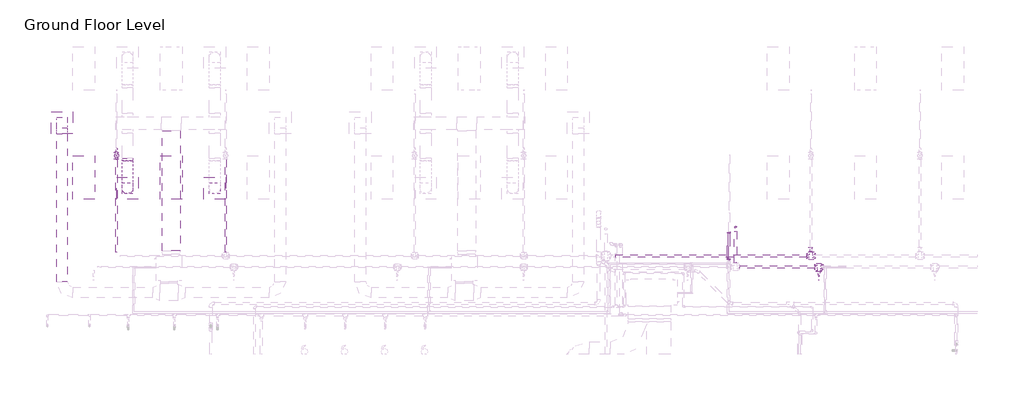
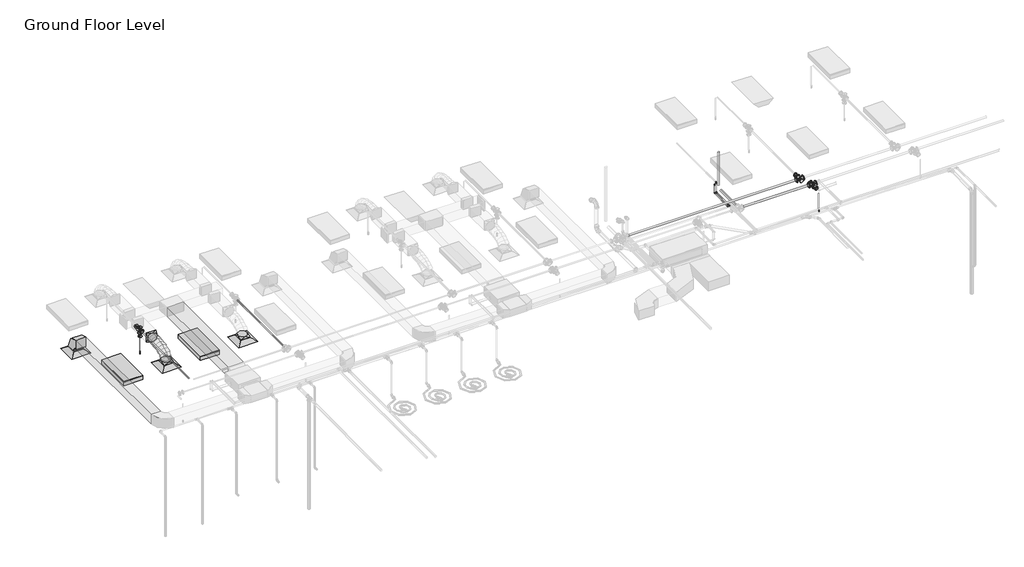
# One storey, part 54 of 72: 14 pipe fittings, 14 pipe segments, 4 duct fittings, 4 duct segments, 3 air terminals, 2 fire suppression terminals, 2 light fixtures.
"""IFC4 building model written with IfcOpenShell, lengths in millimetres."""

from ifc_helpers import new_model, si_unit, point, frame, frame_2d, origin, place, context, project, spatial, polyline, circle_curve, ellipse_curve, trimmed, segment, composite_curve, outline, extrude, transform, mapped, element, save
from ifc_brep_helpers import plane_surface, cylinder_surface, advanced_brep
from components import m_return_diffuser_600_x_600_face_300_x_300_connection_ff221211, m_rectangular_elbow_radius_1_w_618da153, m_rectangular_to_round_transition_angle_45_degree_641efff0, m_sprinkler_dry_pendent_hosted_15_mm_dry_pendent_9bda8e11, m_sprinkler_pendent_15_mm_pendent_06fcbd8e, m_troffer_light_parabolic_rectangular1_0600x1200mm_4_lamp_86473d4a, m_elbow_generic_standard_738589b0, m_elbow_generic_standard_463efa77, m_reducer_flanged_cs_class_150_standard_d42b2106, m_reducer_flanged_cs_class_150_standard_a7631c35, m_reducer_flanged_cs_class_150_standard_55262df0, m_tee_round_base_flanged_cs_class_150_standard_dd767e04, m_tee_round_base_flanged_cs_class_150_standard_7e5987a1

model = new_model("IFC4")

# Units and contexts
model_context = context("Model", 3, world=origin())
ifc_project = project(units=[si_unit("LENGTHUNIT", "METRE", prefix="MILLI")], contexts=[model_context])

# Site, building, storey
site = spatial("IfcSite", under=ifc_project)
building = spatial("IfcBuilding", under=site)
storey = spatial("IfcBuildingStorey", under=building, Name="Ground Floor Level", Elevation=900.0)

# Air terminals
placement = place(None, origin())
m_return_diffuser_600_x_600_face_300_x_300_connection_shape = m_return_diffuser_600_x_600_face_300_x_300_connection_ff221211(model_context)
element("IfcAirTerminal", 1, ObjectType="M_Return Diffuser : 600 x 600 Face 300 x 300 Connection", at=placement, inside=storey, context=model_context, shape_type="MappedRepresentation", body=[
    mapped(m_return_diffuser_600_x_600_face_300_x_300_connection_shape, transform((-20937.2327605, 18735.2153534, 3650.0), x_axis=(1.0, 0.0, 0.0), y_axis=(0.0, 1.0, 0.0), z_axis=(0.0, 0.0, 1.0))),
])
element("IfcAirTerminal", 2, ObjectType="M_Supply Diffuser : 600 x 600 Face 300 x 300 Connection", at=placement, inside=storey, context=model_context, shape_type="MappedRepresentation", body=[
    mapped(m_return_diffuser_600_x_600_face_300_x_300_connection_shape, transform((-19137.2327605, 16935.2153534, 3650.0), x_axis=(1.0, 0.0, 0.0), y_axis=(0.0, 1.0, 0.0), z_axis=(0.0, 0.0, 1.0))),
])
element("IfcAirTerminal", 3, ObjectType="M_Supply Diffuser : 600 x 600 Face 300 x 300 Connection", at=placement, inside=storey, context=model_context, shape_type="MappedRepresentation", body=[
    mapped(m_return_diffuser_600_x_600_face_300_x_300_connection_shape, transform((-16737.2327605, 16935.2153534, 3650.0), x_axis=(1.0, 0.0, 0.0), y_axis=(0.0, 1.0, 0.0), z_axis=(0.0, 0.0, 1.0))),
])

# Duct fittings
m_rectangular_elbow_radius_1_w_shape = m_rectangular_elbow_radius_1_w_618da153(model_context)
element("IfcDuctFitting", 4, ObjectType="M_Rectangular Elbow - Radius : 1 W", at=placement, inside=storey, context=model_context, shape_type="MappedRepresentation", body=[
    mapped(m_rectangular_elbow_radius_1_w_shape, transform((-20937.2327605, 18735.2153534, 4075.2881511), x_axis=(0.0, 0.0, 1.0), y_axis=(0.0, -1.0, 0.0), z_axis=(1.0, 0.0, 0.0))),
])
m_rectangular_to_round_transition_angle_45_degree_shape = m_rectangular_to_round_transition_angle_45_degree_641efff0(model_context)
element("IfcDuctFitting", 5, ObjectType="M_Rectangular to Round Transition - Angle : 45 Degree", at=placement, inside=storey, context=model_context, shape_type="MappedRepresentation", body=[
    mapped(m_rectangular_to_round_transition_angle_45_degree_shape, transform((-16737.2327605, 16935.2153534, 3751.6), x_axis=(0.0, 0.0, 1.0), y_axis=(-1.0, 0.0, 0.0), z_axis=(0.0, -1.0, 0.0))),
])
element("IfcDuctFitting", 6, ObjectType="M_Rectangular to Round Transition - Angle : 45 Degree", at=placement, inside=storey, context=model_context, shape_type="MappedRepresentation", body=[
    mapped(m_rectangular_to_round_transition_angle_45_degree_shape, transform((-19137.2327605, 16935.2153534, 3751.6), x_axis=(0.0, 0.0, 1.0), y_axis=(-1.0, 0.0, 0.0), z_axis=(0.0, -1.0, 0.0))),
])
element("IfcDuctFitting", 7, ObjectType="M_Rectangular to Round Transition - Angle : 45 Degree", at=placement, inside=storey, context=model_context, shape_type="MappedRepresentation", body=[
    mapped(m_rectangular_to_round_transition_angle_45_degree_shape, transform((-19137.2327605, 17762.5518775, 4099.9994072), x_axis=(0.0, -1.0, 0.0), y_axis=(1.0, 0.0, 0.0), z_axis=(0.0, 0.0, 1.0))),
])

# Duct segments
element("IfcDuctSegment", 8, ObjectType="Flex - Round", at=placement, inside=storey, context=model_context, shape_type="AdvancedBrep", body=[
    advanced_brep(
    [(-18987.2327605, 16935.2153534, 3826.6), (-19137.2327605, 16785.2153534, 3826.6), (-19287.2327605, 16935.2153534, 3826.6), (-19137.2327605, 17085.2153534, 3826.6), (-18987.2327605, 16935.2153534, 3857.9377363), (-19137.2327605, 16785.2153534, 3883.580989), (-19287.2327605, 16935.2153534, 3857.9377363), (-19137.2327605, 17085.2153534, 3832.2944836), (-18987.2327605, 16952.2313024, 3906.2505836), (-19137.2327605, 16818.4933608, 3978.0661859), (-19287.2327605, 16952.2313024, 3906.2505836), (-19137.2327605, 17085.969244, 3834.4349814), (-18987.2327605, 16999.4152275, 3968.711286), (-19137.2327605, 16895.2094297, 4079.6206779), (-19287.2327605, 16999.4152275, 3968.711286), (-19137.2327605, 17103.6210253, 3857.8018941), (-18987.2327605, 17070.9712459, 4016.0699627), (-19137.2327605, 17002.0373501, 4150.3237308), (-19287.2327605, 17070.9712459, 4016.0699627), (-19137.2327605, 17139.9051416, 3881.8161947), (-18987.2327605, 17161.1034747, 4050.4144697), (-19137.2327605, 17117.5428863, 4194.3366298), (-19287.2327605, 17161.1034747, 4050.4144697), (-19137.2327605, 17204.6640631, 3906.4923095), (-18987.2327605, 17264.0160312, 4073.8326625), (-19137.2327605, 17237.4552729, 4221.6232067), (-19287.2327605, 17264.0160312, 4073.8326625), (-19137.2327605, 17290.5767896, 3926.0421182), (-18987.2327605, 17373.9130326, 4088.4123969), (-19137.2327605, 17358.7622742, 4237.7166746), (-19287.2327605, 17373.9130326, 4088.4123969), (-19137.2327605, 17389.0637909, 3939.1081192), (-18987.2327605, 17484.9985959, 4096.2415287), (-19137.2327605, 17477.4933798, 4246.0846519), (-19287.2327605, 17484.9985959, 4096.2415287), (-19137.2327605, 17492.5038121, 3946.3984054), (-18987.2327605, 17591.4768385, 4099.4079135), (-19137.2327605, 17588.7854112, 4249.3941863), (-19287.2327605, 17591.4768385, 4099.4079135), (-19137.2327605, 17594.1682658, 3949.4216408), (-18987.2327605, 17687.5518775, 4099.9994072), (-19137.2327605, 17688.475347, 3950.0022499), (-19287.2327605, 17687.5518775, 4099.9994072), (-19137.2327605, 17686.6284079, 4249.9965645)],
    [
        (0, 1, circle_curve(frame((-19137.2327605, 16935.2153534, 3826.6), z_axis=(0.0, 0.0, -1.0), x_axis=(1.0, 0.0, 0.0)), 150.0)),
        (1, 2, circle_curve(frame((-19137.2327605, 16935.2153534, 3826.6), z_axis=(0.0, 0.0, -1.0), x_axis=(1.0, 0.0, 0.0)), 150.0)),
        (2, 3, circle_curve(frame((-19137.2327605, 16935.2153534, 3826.6), z_axis=(0.0, 0.0, -1.0), x_axis=(1.0, 0.0, 0.0)), 150.0)),
        (3, 0, circle_curve(frame((-19137.2327605, 16935.2153534, 3826.6), z_axis=(0.0, 0.0, -1.0), x_axis=(1.0, 0.0, 0.0)), 150.0)),
        (0, 4),
        (4, 5, ellipse_curve(frame((-19137.2327605, 16935.2153534, 3857.9377363), z_axis=(0.0, -0.1685103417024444, -0.9856998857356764), x_axis=(0.0, 0.9856998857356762, -0.1685103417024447)), 152.1761361, 150.0)),
        (5, 1),
        (5, 6, ellipse_curve(frame((-19137.2327605, 16935.2153534, 3857.9377363), z_axis=(0.0, -0.1685103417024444, -0.9856998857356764), x_axis=(0.0, 0.9856998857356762, -0.1685103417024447)), 152.1761361, 150.0)),
        (6, 2),
        (6, 7, ellipse_curve(frame((-19137.2327605, 16935.2153534, 3857.9377363), z_axis=(0.0, -0.1685103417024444, -0.9856998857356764), x_axis=(0.0, 0.9856998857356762, -0.1685103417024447)), 152.1761361, 150.0)),
        (7, 3),
        (7, 4, ellipse_curve(frame((-19137.2327605, 16935.2153534, 3857.9377363), z_axis=(0.0, -0.1685103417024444, -0.9856998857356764), x_axis=(0.0, 0.9856998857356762, -0.1685103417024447)), 152.1761361, 150.0)),
        (4, 8),
        (8, 9, ellipse_curve(frame((-19137.2327605, 16952.2313024, 3906.2505836), z_axis=(0.0, -0.4730927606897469, -0.8810126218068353), x_axis=(0.0, 0.881012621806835, -0.4730927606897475)), 151.8002561, 150.0)),
        (9, 5),
        (9, 10, ellipse_curve(frame((-19137.2327605, 16952.2313024, 3906.2505836), z_axis=(0.0, -0.4730927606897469, -0.8810126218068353), x_axis=(0.0, 0.881012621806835, -0.4730927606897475)), 151.8002561, 150.0)),
        (10, 6),
        (10, 11, ellipse_curve(frame((-19137.2327605, 16952.2313024, 3906.2505836), z_axis=(0.0, -0.4730927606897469, -0.8810126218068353), x_axis=(0.0, 0.881012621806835, -0.4730927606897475)), 151.8002561, 150.0)),
        (11, 7),
        (11, 8, ellipse_curve(frame((-19137.2327605, 16952.2313024, 3906.2505836), z_axis=(0.0, -0.4730927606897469, -0.8810126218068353), x_axis=(0.0, 0.881012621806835, -0.4730927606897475)), 151.8002561, 150.0)),
        (8, 12),
        (12, 13, ellipse_curve(frame((-19137.2327605, 16999.4152275, 3968.711286), z_axis=(0.0, -0.7287884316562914, -0.6847389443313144), x_axis=(0.0, 0.6847389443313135, -0.7287884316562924)), 152.1832498, 150.0)),
        (13, 9),
        (13, 14, ellipse_curve(frame((-19137.2327605, 16999.4152275, 3968.711286), z_axis=(0.0, -0.7287884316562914, -0.6847389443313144), x_axis=(0.0, 0.6847389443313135, -0.7287884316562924)), 152.1832498, 150.0)),
        (14, 10),
        (14, 15, ellipse_curve(frame((-19137.2327605, 16999.4152275, 3968.711286), z_axis=(0.0, -0.7287884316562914, -0.6847389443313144), x_axis=(0.0, 0.6847389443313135, -0.7287884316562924)), 152.1832498, 150.0)),
        (15, 11),
        (15, 12, ellipse_curve(frame((-19137.2327605, 16999.4152275, 3968.711286), z_axis=(0.0, -0.7287884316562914, -0.6847389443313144), x_axis=(0.0, 0.6847389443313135, -0.7287884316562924)), 152.1832498, 150.0)),
        (12, 16),
        (16, 17, ellipse_curve(frame((-19137.2327605, 17070.9712459, 4016.0699627), z_axis=(0.0, -0.8895864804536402, -0.45676678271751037), x_axis=(0.0, 0.45676678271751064, -0.88958648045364)), 150.9170508, 150.0)),
        (17, 13),
        (17, 18, ellipse_curve(frame((-19137.2327605, 17070.9712459, 4016.0699627), z_axis=(0.0, -0.8895864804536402, -0.45676678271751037), x_axis=(0.0, 0.45676678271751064, -0.88958648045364)), 150.9170508, 150.0)),
        (18, 14),
        (18, 19, ellipse_curve(frame((-19137.2327605, 17070.9712459, 4016.0699627), z_axis=(0.0, -0.8895864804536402, -0.45676678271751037), x_axis=(0.0, 0.45676678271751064, -0.88958648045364)), 150.9170508, 150.0)),
        (19, 15),
        (19, 16, ellipse_curve(frame((-19137.2327605, 17070.9712459, 4016.0699627), z_axis=(0.0, -0.8895864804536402, -0.45676678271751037), x_axis=(0.0, 0.45676678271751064, -0.88958648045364)), 150.9170508, 150.0)),
        (16, 20),
        (20, 21, ellipse_curve(frame((-19137.2327605, 17161.1034747, 4050.4144697), z_axis=(0.0, -0.9571206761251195, -0.2896895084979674), x_axis=(0.0, 0.28968950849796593, -0.9571206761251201)), 150.3699207, 150.0)),
        (21, 17),
        (21, 22, ellipse_curve(frame((-19137.2327605, 17161.1034747, 4050.4144697), z_axis=(0.0, -0.9571206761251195, -0.2896895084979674), x_axis=(0.0, 0.28968950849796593, -0.9571206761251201)), 150.3699207, 150.0)),
        (22, 18),
        (22, 23, ellipse_curve(frame((-19137.2327605, 17161.1034747, 4050.4144697), z_axis=(0.0, -0.9571206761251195, -0.2896895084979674), x_axis=(0.0, 0.28968950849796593, -0.9571206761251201)), 150.3699207, 150.0)),
        (23, 19),
        (23, 20, ellipse_curve(frame((-19137.2327605, 17161.1034747, 4050.4144697), z_axis=(0.0, -0.9571206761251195, -0.2896895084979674), x_axis=(0.0, 0.28968950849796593, -0.9571206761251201)), 150.3699207, 150.0)),
        (20, 24),
        (24, 25, ellipse_curve(frame((-19137.2327605, 17264.0160312, 4073.8326625), z_axis=(0.0, -0.984231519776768, -0.17688503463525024), x_axis=(0.0, 0.17688503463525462, -0.984231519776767)), 150.1583126, 150.0)),
        (25, 21),
        (25, 26, ellipse_curve(frame((-19137.2327605, 17264.0160312, 4073.8326625), z_axis=(0.0, -0.984231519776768, -0.17688503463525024), x_axis=(0.0, 0.17688503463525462, -0.984231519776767)), 150.1583126, 150.0)),
        (26, 22),
        (26, 27, ellipse_curve(frame((-19137.2327605, 17264.0160312, 4073.8326625), z_axis=(0.0, -0.984231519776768, -0.17688503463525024), x_axis=(0.0, 0.17688503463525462, -0.984231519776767)), 150.1583126, 150.0)),
        (27, 23),
        (27, 24, ellipse_curve(frame((-19137.2327605, 17264.0160312, 4073.8326625), z_axis=(0.0, -0.984231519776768, -0.17688503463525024), x_axis=(0.0, 0.17688503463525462, -0.984231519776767)), 150.1583126, 150.0)),
        (24, 28),
        (28, 29, ellipse_curve(frame((-19137.2327605, 17373.9130326, 4088.4123969), z_axis=(0.0, -0.9948907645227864, -0.1009572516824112), x_axis=(0.0, 0.10095725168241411, -0.9948907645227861)), 150.0710259, 150.0)),
        (29, 25),
        (29, 30, ellipse_curve(frame((-19137.2327605, 17373.9130326, 4088.4123969), z_axis=(0.0, -0.9948907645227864, -0.1009572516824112), x_axis=(0.0, 0.10095725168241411, -0.9948907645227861)), 150.0710259, 150.0)),
        (30, 26),
        (30, 31, ellipse_curve(frame((-19137.2327605, 17373.9130326, 4088.4123969), z_axis=(0.0, -0.9948907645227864, -0.1009572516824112), x_axis=(0.0, 0.10095725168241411, -0.9948907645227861)), 150.0710259, 150.0)),
        (31, 27),
        (31, 28, ellipse_curve(frame((-19137.2327605, 17373.9130326, 4088.4123969), z_axis=(0.0, -0.9948907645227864, -0.1009572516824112), x_axis=(0.0, 0.10095725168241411, -0.9948907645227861)), 150.0710259, 150.0)),
        (28, 32),
        (32, 33, ellipse_curve(frame((-19137.2327605, 17484.9985959, 4096.2415287), z_axis=(0.0, -0.9987479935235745, -0.05002444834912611), x_axis=(0.0, 0.050024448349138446, -0.9987479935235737)), 150.030963, 150.0)),
        (33, 29),
        (33, 34, ellipse_curve(frame((-19137.2327605, 17484.9985959, 4096.2415287), z_axis=(0.0, -0.9987479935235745, -0.05002444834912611), x_axis=(0.0, 0.050024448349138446, -0.9987479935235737)), 150.030963, 150.0)),
        (34, 30),
        (34, 35, ellipse_curve(frame((-19137.2327605, 17484.9985959, 4096.2415287), z_axis=(0.0, -0.9987479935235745, -0.05002444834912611), x_axis=(0.0, 0.050024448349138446, -0.9987479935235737)), 150.030963, 150.0)),
        (35, 31),
        (35, 32, ellipse_curve(frame((-19137.2327605, 17484.9985959, 4096.2415287), z_axis=(0.0, -0.9987479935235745, -0.05002444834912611), x_axis=(0.0, 0.050024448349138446, -0.9987479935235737)), 150.030963, 150.0)),
        (32, 36),
        (36, 37, ellipse_curve(frame((-19137.2327605, 17591.4768385, 4099.4079135), z_axis=(0.0, -0.9998390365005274, -0.017941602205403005), x_axis=(0.0, 0.017941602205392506, -0.9998390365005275)), 150.0104189, 150.0)),
        (37, 33),
        (37, 38, ellipse_curve(frame((-19137.2327605, 17591.4768385, 4099.4079135), z_axis=(0.0, -0.9998390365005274, -0.017941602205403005), x_axis=(0.0, 0.017941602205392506, -0.9998390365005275)), 150.0104189, 150.0)),
        (38, 34),
        (38, 39, ellipse_curve(frame((-19137.2327605, 17591.4768385, 4099.4079135), z_axis=(0.0, -0.9998390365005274, -0.017941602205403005), x_axis=(0.0, 0.017941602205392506, -0.9998390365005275)), 150.0104189, 150.0)),
        (39, 35),
        (39, 36, ellipse_curve(frame((-19137.2327605, 17591.4768385, 4099.4079135), z_axis=(0.0, -0.9998390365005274, -0.017941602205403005), x_axis=(0.0, 0.017941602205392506, -0.9998390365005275)), 150.0104189, 150.0)),
        (40, 41, circle_curve(frame((-19137.2327605, 17687.5518775, 4099.9994072), z_axis=(0.0, 0.9999810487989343, 0.006156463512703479), x_axis=(1.0, 0.0, 0.0)), 150.0)),
        (41, 42, circle_curve(frame((-19137.2327605, 17687.5518775, 4099.9994072), z_axis=(0.0, 0.9999810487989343, 0.006156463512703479), x_axis=(1.0, 0.0, 0.0)), 150.0)),
        (42, 43, circle_curve(frame((-19137.2327605, 17687.5518775, 4099.9994072), z_axis=(0.0, 0.9999810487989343, 0.006156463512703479), x_axis=(1.0, 0.0, 0.0)), 150.0)),
        (43, 40, circle_curve(frame((-19137.2327605, 17687.5518775, 4099.9994072), z_axis=(0.0, 0.9999810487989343, 0.006156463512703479), x_axis=(1.0, 0.0, 0.0)), 150.0)),
        (36, 40),
        (43, 37),
        (42, 38),
        (41, 39),
    ],
    [
        plane_surface(frame((-19137.2327605, 16785.2153534, 3826.6), z_axis=(0.0, 0.0, -1.0), x_axis=(1.0, 0.0, 0.0))),
        cylinder_surface(frame((-19137.2327605, 16935.2153534, 3826.6), z_axis=(0.0, 0.0, -1.0), x_axis=(1.0, 0.0, 0.0)), 150.0),
        cylinder_surface(frame((-19137.2327605, 16935.2153534, 3857.9377363), z_axis=(0.0, -0.33220124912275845, -0.9432085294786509), x_axis=(1.0, 0.0, 0.0)), 150.0),
        cylinder_surface(frame((-19137.2327605, 16952.2313024, 3906.2505836), z_axis=(0.0, -0.6027631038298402, -0.7979201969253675), x_axis=(1.0, 0.0, 0.0)), 150.0),
        cylinder_surface(frame((-19137.2327605, 16999.4152275, 3968.711286), z_axis=(0.0, -0.833903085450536, -0.5519109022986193), x_axis=(1.0, 0.0, 0.0)), 150.0),
        cylinder_surface(frame((-19137.2327605, 17070.9712459, 4016.0699627), z_axis=(0.0, -0.9344586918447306, -0.3560715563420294), x_axis=(1.0, 0.0, 0.0)), 150.0),
        cylinder_surface(frame((-19137.2327605, 17161.1034747, 4050.4144697), z_axis=(0.0, -0.9750734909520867, -0.22188214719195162), x_axis=(1.0, 0.0, 0.0)), 150.0),
        cylinder_surface(frame((-19137.2327605, 17264.0160312, 4073.8326625), z_axis=(0.0, -0.9913141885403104, -0.13151494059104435), x_axis=(1.0, 0.0, 0.0)), 150.0),
        cylinder_surface(frame((-19137.2327605, 17373.9130326, 4088.4123969), z_axis=(0.0, -0.9975256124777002, -0.07030400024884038), x_axis=(1.0, 0.0, 0.0)), 150.0),
        cylinder_surface(frame((-19137.2327605, 17484.9985959, 4096.2415287), z_axis=(0.0, -0.9995581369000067, -0.029724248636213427), x_axis=(1.0, 0.0, 0.0)), 150.0),
        plane_surface(frame((-19137.2327605, 17686.6284079, 4249.9965645), z_axis=(0.0, 0.9999810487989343, 0.006156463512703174), x_axis=(1.0, 0.0, 0.0))),
        cylinder_surface(frame((-19137.2327605, 17591.4768385, 4099.4079135), z_axis=(0.0, -0.9999810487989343, -0.006156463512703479), x_axis=(1.0, 0.0, 0.0)), 150.0),
    ],
    [
        (0, [[1, 2, 3, 4]]),
        (1, [[-1, 5, 6, 7]]),
        (1, [[-2, -7, 8, 9]]),
        (1, [[-3, -9, 10, 11]]),
        (1, [[-4, -11, 12, -5]]),
        (2, [[-6, 13, 14, 15]]),
        (2, [[-8, -15, 16, 17]]),
        (2, [[-10, -17, 18, 19]]),
        (2, [[-12, -19, 20, -13]]),
        (3, [[-14, 21, 22, 23]]),
        (3, [[-16, -23, 24, 25]]),
        (3, [[-18, -25, 26, 27]]),
        (3, [[-20, -27, 28, -21]]),
        (4, [[-22, 29, 30, 31]]),
        (4, [[-24, -31, 32, 33]]),
        (4, [[-26, -33, 34, 35]]),
        (4, [[-28, -35, 36, -29]]),
        (5, [[-30, 37, 38, 39]]),
        (5, [[-32, -39, 40, 41]]),
        (5, [[-34, -41, 42, 43]]),
        (5, [[-36, -43, 44, -37]]),
        (6, [[-38, 45, 46, 47]]),
        (6, [[-40, -47, 48, 49]]),
        (6, [[-42, -49, 50, 51]]),
        (6, [[-44, -51, 52, -45]]),
        (7, [[-46, 53, 54, 55]]),
        (7, [[-48, -55, 56, 57]]),
        (7, [[-50, -57, 58, 59]]),
        (7, [[-52, -59, 60, -53]]),
        (8, [[-54, 61, 62, 63]]),
        (8, [[-56, -63, 64, 65]]),
        (8, [[-58, -65, 66, 67]]),
        (8, [[-60, -67, 68, -61]]),
        (9, [[-62, 69, 70, 71]]),
        (9, [[-64, -71, 72, 73]]),
        (9, [[-66, -73, 74, 75]]),
        (9, [[-68, -75, 76, -69]]),
        (10, [[77, 78, 79, 80]]),
        (11, [[-70, 81, -80, 82]]),
        (11, [[-72, -82, -79, 83]]),
        (11, [[-74, -83, -78, 84]]),
        (11, [[-76, -84, -77, -81]]),
    ],
),
])
element("IfcDuctSegment", 9, ObjectType="Radius Elbows / Taps", at=placement, inside=storey, context=model_context, shape_type="SweptSolid", body=[
    extrude(outline(polyline([(-17683.7327605, 15224.0945822), (-18183.7327605, 15224.0945822), (-18183.7327605, 18524.6783949), (-17683.7327605, 18524.6783949), (-17683.7327605, 15224.0945822)])), frame((0.0, 0.0, 3950.0008948), z_axis=(0.0, 0.0, 1.0), x_axis=(1.0, 0.0, 0.0)), (0.0, 0.0, 1.0), 300.0),
])
element("IfcDuctSegment", 10, ObjectType="Radius Elbows / Taps", at=placement, inside=storey, context=model_context, shape_type="SweptSolid", body=[
    extrude(outline(polyline([(-20787.2327605, 14369.8153534), (-21087.2327605, 14369.8153534), (-21087.2327605, 18435.2153534), (-20787.2327605, 18435.2153534), (-20787.2327605, 14369.8153534)])), frame((0.0, 0.0, 3925.2881511), z_axis=(0.0, 0.0, 1.0), x_axis=(1.0, 0.0, 0.0)), (0.0, 0.0, 1.0), 300.0),
])
element("IfcDuctSegment", 11, ObjectType="Radius Elbows / Taps", at=placement, inside=storey, context=model_context, shape_type="SweptSolid", body=[
    extrude(outline(polyline([(-20787.2327605, 18585.2153534), (-21087.2327605, 18585.2153534), (-21087.2327605, 18885.2153534), (-20787.2327605, 18885.2153534), (-20787.2327605, 18585.2153534)])), frame((0.0, 0.0, 3751.6), z_axis=(0.0, 0.0, 1.0), x_axis=(1.0, 0.0, 0.0)), (0.0, 0.0, 1.0), 23.6881511),
])

# Fire suppression terminals
m_sprinkler_dry_pendent_hosted_15_mm_dry_pendent_shape = m_sprinkler_dry_pendent_hosted_15_mm_dry_pendent_9bda8e11(model_context)
element("IfcFireSuppressionTerminal", 12, ObjectType="M_Sprinkler - Dry - Pendent - Hosted : 15 mm Dry Pendent", at=placement, inside=storey, context=model_context, shape_type="MappedRepresentation", body=[
    mapped(m_sprinkler_dry_pendent_hosted_15_mm_dry_pendent_shape, transform((-19437.2327605, 17835.2153534, 3650.0), x_axis=(1.0, 0.0, 0.0), y_axis=(0.0, -1.0, 0.0), z_axis=(0.0, 0.0, -1.0))),
])
m_sprinkler_pendent_15_mm_pendent_shape = m_sprinkler_pendent_15_mm_pendent_06fcbd8e(model_context)
element("IfcFireSuppressionTerminal", 13, ObjectType="M_Sprinkler - Pendent : 15 mm Pendent", at=placement, inside=storey, context=model_context, shape_type="MappedRepresentation", body=[
    mapped(m_sprinkler_pendent_15_mm_pendent_shape, transform((-118.3252882, 14412.7243649, 3650.0), x_axis=(1.0, 0.0, 0.0), y_axis=(0.0, 1.0, 0.0), z_axis=(0.0, 0.0, 1.0))),
])

# Light fixtures
m_troffer_light_parabolic_rectangular1_0600x1200mm_4_lamp_shape = m_troffer_light_parabolic_rectangular1_0600x1200mm_4_lamp_86473d4a(model_context)
element("IfcLightFixture", 14, ObjectType="M_Troffer Light - Parabolic Rectangular1 : 0600x1200mm(4 Lamp) - 277V 2", at=placement, inside=storey, context=model_context, shape_type="MappedRepresentation", body=[
    mapped(m_troffer_light_parabolic_rectangular1_0600x1200mm_4_lamp_shape, transform((-20396.6986926, 17253.918855, 3650.0), x_axis=(0.0, 1.0, 0.0), y_axis=(-1.0, 0.0, 0.0), z_axis=(0.0, 0.0, 1.0))),
])
element("IfcLightFixture", 15, ObjectType="M_Troffer Light - Parabolic Rectangular1 : 0600x1200mm(4 Lamp) - 277V 2", at=placement, inside=storey, context=model_context, shape_type="MappedRepresentation", body=[
    mapped(m_troffer_light_parabolic_rectangular1_0600x1200mm_4_lamp_shape, transform((-17996.6986926, 17253.918855, 3650.0), x_axis=(0.0, 1.0, 0.0), y_axis=(-1.0, 0.0, 0.0), z_axis=(0.0, 0.0, 1.0))),
])

# Pipe fittings
m_elbow_generic_standard_shape = m_elbow_generic_standard_738589b0(model_context)
element("IfcPipeFitting", 16, ObjectType="M_Elbow - Generic : Standard", at=placement, inside=storey, context=model_context, shape_type="MappedRepresentation", body=[
    mapped(m_elbow_generic_standard_shape, transform((-2632.5317947, 15715.5935138, 4581.0887163), x_axis=(0.0, 0.0, 1.0), y_axis=(0.0, 1.0, 0.0), z_axis=(-1.0, 0.0, 0.0))),
])
element("IfcPipeFitting", 17, ObjectType="M_Elbow - Generic : Standard", at=placement, inside=storey, context=model_context, shape_type="MappedRepresentation", body=[
    mapped(m_elbow_generic_standard_shape, transform((-2632.5317947, 14990.7777393, 4365.0), x_axis=(0.0, 1.0, 0.0), y_axis=(0.0, 0.0, -1.0), z_axis=(-1.0, 0.0, 0.0))),
])
element("IfcPipeFitting", 18, ObjectType="M_Elbow - Generic : Standard", at=placement, inside=storey, context=model_context, shape_type="MappedRepresentation", body=[
    mapped(m_elbow_generic_standard_shape, transform((-2632.5317947, 15715.5935138, 4300.0), x_axis=(0.0, 0.0, -1.0), y_axis=(0.0, -1.0, 0.0), z_axis=(-1.0, 0.0, 0.0))),
])
element("IfcPipeFitting", 19, ObjectType="M_Elbow - Generic : Standard", at=placement, inside=storey, context=model_context, shape_type="MappedRepresentation", body=[
    mapped(m_elbow_generic_standard_shape, transform((-2632.5317947, 14990.7777393, 4300.0), x_axis=(0.0, 0.0, -1.0), y_axis=(0.0, 1.0, 0.0), z_axis=(1.0, 0.0, 0.0))),
])
m_elbow_generic_standard_2_shape = m_elbow_generic_standard_463efa77(model_context)
element("IfcPipeFitting", 20, ObjectType="M_Elbow - Generic : Standard", at=placement, inside=storey, context=model_context, shape_type="MappedRepresentation", body=[
    mapped(m_elbow_generic_standard_2_shape, transform((-2579.6952605, 15716.2153534, 4634.3568617), x_axis=(0.0, 0.0, 1.0), y_axis=(0.0, 1.0, 0.0), z_axis=(-1.0, 0.0, 0.0))),
])
element("IfcPipeFitting", 21, ObjectType="M_Elbow - Generic : Standard", at=placement, inside=storey, context=model_context, shape_type="MappedRepresentation", body=[
    mapped(m_elbow_generic_standard_2_shape, transform((-2579.6952605, 15716.2153534, 4300.0), x_axis=(0.0, 0.0, -1.0), y_axis=(0.0, -1.0, 0.0), z_axis=(-1.0, 0.0, 0.0))),
])
element("IfcPipeFitting", 22, ObjectType="M_Elbow - Generic : Standard", at=placement, inside=storey, context=model_context, shape_type="MappedRepresentation", body=[
    mapped(m_elbow_generic_standard_2_shape, transform((-2579.6952605, 14974.394156, 4300.0), x_axis=(0.0, 0.0, -1.0), y_axis=(0.0, 1.0, 0.0), z_axis=(1.0, 0.0, 0.0))),
])
m_reducer_flanged_cs_class_150_standard_shape = m_reducer_flanged_cs_class_150_standard_d42b2106(model_context)
element("IfcPipeFitting", 23, ObjectType="M_Reducer - Flanged - CS - Class 150 : Standard", at=placement, inside=storey, context=model_context, shape_type="MappedRepresentation", body=[
    mapped(m_reducer_flanged_cs_class_150_standard_shape, transform((-19437.2327605, 17835.2153534, 4259.2914063), x_axis=(0.0, 0.0, -1.0), y_axis=(-1.0, 0.0, 0.0), z_axis=(0.0, 1.0, 0.0))),
])
element("IfcPipeFitting", 24, ObjectType="M_Reducer - Flanged - CS - Class 150 : Standard", at=placement, inside=storey, context=model_context, shape_type="MappedRepresentation", body=[
    mapped(m_reducer_flanged_cs_class_150_standard_shape, transform((-19437.2327605, 17935.9239471, 4360.0), x_axis=(0.0, 1.0, 0.0), y_axis=(-1.0, 0.0, 0.0), z_axis=(0.0, 0.0, 1.0))),
])
m_reducer_flanged_cs_class_150_standard_2_shape = m_reducer_flanged_cs_class_150_standard_a7631c35(model_context)
element("IfcPipeFitting", 25, ObjectType="M_Reducer - Flanged - CS - Class 150 : Standard", at=placement, inside=storey, context=model_context, shape_type="MappedRepresentation", body=[
    mapped(m_reducer_flanged_cs_class_150_standard_2_shape, transform((-337.2327605, 15187.2009828, 4360.0), x_axis=(0.0, 1.0, 0.0), y_axis=(-1.0, 0.0, 0.0), z_axis=(0.0, 0.0, 1.0))),
])
m_reducer_flanged_cs_class_150_standard_3_shape = m_reducer_flanged_cs_class_150_standard_55262df0(model_context)
element("IfcPipeFitting", 26, ObjectType="M_Reducer - Flanged - CS - Class 150 : Standard", at=placement, inside=storey, context=model_context, shape_type="MappedRepresentation", body=[
    mapped(m_reducer_flanged_cs_class_150_standard_3_shape, transform((-118.3252882, 14659.4681847, 4291.0943441), x_axis=(0.0, -1.0, 0.0), y_axis=(1.0, 0.0, 0.0), z_axis=(0.0, 0.0, 1.0))),
])
m_tee_round_base_flanged_cs_class_150_standard_shape = m_tee_round_base_flanged_cs_class_150_standard_dd767e04(model_context)
element("IfcPipeFitting", 27, ObjectType="M_Tee Round Base - Flanged - CS - Class 150 : Standard", at=placement, inside=storey, context=model_context, shape_type="MappedRepresentation", body=[
    mapped(m_tee_round_base_flanged_cs_class_150_standard_shape, transform((-118.3252882, 14773.4681847, 4291.0943441), x_axis=(-1.0, 0.0, 0.0), y_axis=(0.0, 1.0, 0.0), z_axis=(0.0, 0.0, -1.0))),
])
element("IfcPipeFitting", 28, ObjectType="M_Tee Round Base - Flanged - CS - Class 150 : Standard", at=placement, inside=storey, context=model_context, shape_type="MappedRepresentation", body=[
    mapped(m_tee_round_base_flanged_cs_class_150_standard_shape, transform((-337.2327605, 15073.2009828, 4360.0), x_axis=(-1.0, 0.0, 0.0), y_axis=(0.0, -1.0, 0.0), z_axis=(0.0, 0.0, 1.0))),
])
m_tee_round_base_flanged_cs_class_150_standard_2_shape = m_tee_round_base_flanged_cs_class_150_standard_7e5987a1(model_context)
element("IfcPipeFitting", 29, ObjectType="M_Tee Round Base - Flanged - CS - Class 150 : Standard", at=placement, inside=storey, context=model_context, shape_type="MappedRepresentation", body=[
    mapped(m_tee_round_base_flanged_cs_class_150_standard_2_shape, transform((-19437.2327605, 17835.2153534, 4360.0), x_axis=(0.0, 1.0, 0.0), y_axis=(0.0, 0.0, 1.0), z_axis=(1.0, 0.0, 0.0))),
])

# Pipe segments
element("IfcPipeSegment", 30, ObjectType="Copper", at=placement, inside=storey, context=model_context, shape_type="SweptSolid", body=[
    extrude(outline(composite_curve([segment(trimmed(circle_curve(frame_2d((4300.0, -2579.6952605)), 14.5), [point((4300.0, -2594.1952605))], [point((4285.5, -2579.6952605))], False, "CARTESIAN"), True, "CONTINUOUS"), segment(trimmed(circle_curve(frame_2d((4300.0, -2579.6952605)), 14.5), [point((4285.5, -2579.6952605))], [point((4300.0, -2565.1952605))], False, "CARTESIAN"), True, "CONTINUOUS"), segment(trimmed(circle_curve(frame_2d((4300.0, -2579.6952605)), 14.5), [point((4300.0, -2565.1952605))], [point((4314.5, -2579.6952605))], False, "CARTESIAN"), True, "CONTINUOUS"), segment(trimmed(circle_curve(frame_2d((4300.0, -2579.6952605)), 14.5), [point((4314.5, -2579.6952605))], [point((4300.0, -2594.1952605))], False, "CARTESIAN"), True, "CONTINUOUS")], self_intersect=False)), frame((0.0, 14996.619156, 0.0), z_axis=(0.0, 1.0, 0.0), x_axis=(0.0, 0.0, 1.0)), (0.0, 0.0, 1.0), 697.3711973),
])
element("IfcPipeSegment", 31, ObjectType="Copper", at=placement, inside=storey, context=model_context, shape_type="SweptSolid", body=[
    extrude(outline(composite_curve([segment(trimmed(circle_curve(frame_2d((4300.0, -2632.5317947)), 9.75), [point((4300.0, -2642.2817947))], [point((4290.25, -2632.5317947))], False, "CARTESIAN"), True, "CONTINUOUS"), segment(trimmed(circle_curve(frame_2d((4300.0, -2632.5317947)), 9.75), [point((4290.25, -2632.5317947))], [point((4300.0, -2622.7817947))], False, "CARTESIAN"), True, "CONTINUOUS"), segment(trimmed(circle_curve(frame_2d((4300.0, -2632.5317947)), 9.75), [point((4300.0, -2622.7817947))], [point((4309.75, -2632.5317947))], False, "CARTESIAN"), True, "CONTINUOUS"), segment(trimmed(circle_curve(frame_2d((4300.0, -2632.5317947)), 9.75), [point((4309.75, -2632.5317947))], [point((4300.0, -2642.2817947))], False, "CARTESIAN"), True, "CONTINUOUS")], self_intersect=False)), frame((0.0, 15008.2402393, 0.0), z_axis=(0.0, 1.0, 0.0), x_axis=(0.0, 0.0, 1.0)), (0.0, 0.0, 1.0), 689.8907745),
])
element("IfcPipeSegment", 32, ObjectType="Copper", at=placement, inside=storey, context=model_context, shape_type="SweptSolid", body=[
    extrude(outline(composite_curve([segment(trimmed(circle_curve(frame_2d((-2632.5317947, 15715.5935138)), 9.75), [point((-2642.2817947, 15715.5935138))], [point((-2632.5317947, 15725.3435138))], False, "CARTESIAN"), True, "CONTINUOUS"), segment(trimmed(circle_curve(frame_2d((-2632.5317947, 15715.5935138)), 9.75), [point((-2632.5317947, 15725.3435138))], [point((-2622.7817947, 15715.5935138))], False, "CARTESIAN"), True, "CONTINUOUS"), segment(trimmed(circle_curve(frame_2d((-2632.5317947, 15715.5935138)), 9.75), [point((-2622.7817947, 15715.5935138))], [point((-2632.5317947, 15705.8435138))], False, "CARTESIAN"), True, "CONTINUOUS"), segment(trimmed(circle_curve(frame_2d((-2632.5317947, 15715.5935138)), 9.75), [point((-2632.5317947, 15705.8435138))], [point((-2642.2817947, 15715.5935138))], False, "CARTESIAN"), True, "CONTINUOUS")], self_intersect=False)), frame((0.0, 0.0, 4317.4625), z_axis=(0.0, 0.0, 1.0), x_axis=(1.0, 0.0, 0.0)), (0.0, 0.0, 1.0), 246.1637163),
])
element("IfcPipeSegment", 33, ObjectType="Copper", at=placement, inside=storey, context=model_context, shape_type="SweptSolid", body=[
    extrude(outline(composite_curve([segment(trimmed(circle_curve(frame_2d((-2579.6952605, 15716.2153534)), 14.5), [point((-2594.1952605, 15716.2153534))], [point((-2579.6952605, 15730.7153534))], False, "CARTESIAN"), True, "CONTINUOUS"), segment(trimmed(circle_curve(frame_2d((-2579.6952605, 15716.2153534)), 14.5), [point((-2579.6952605, 15730.7153534))], [point((-2565.1952605, 15716.2153534))], False, "CARTESIAN"), True, "CONTINUOUS"), segment(trimmed(circle_curve(frame_2d((-2579.6952605, 15716.2153534)), 14.5), [point((-2565.1952605, 15716.2153534))], [point((-2579.6952605, 15701.7153534))], False, "CARTESIAN"), True, "CONTINUOUS"), segment(trimmed(circle_curve(frame_2d((-2579.6952605, 15716.2153534)), 14.5), [point((-2579.6952605, 15701.7153534))], [point((-2594.1952605, 15716.2153534))], False, "CARTESIAN"), True, "CONTINUOUS")], self_intersect=False)), frame((0.0, 0.0, 4322.225), z_axis=(0.0, 0.0, 1.0), x_axis=(1.0, 0.0, 0.0)), (0.0, 0.0, 1.0), 289.9068617),
])
element("IfcPipeSegment", 34, ObjectType="Copper", at=placement, inside=storey, context=model_context, shape_type="SweptSolid", body=[
    extrude(outline(composite_curve([segment(trimmed(circle_curve(frame_2d((-2632.5317947, 14990.7777393)), 9.75), [point((-2622.7817947, 14990.7777393))], [point((-2632.5317947, 14981.0277393))], False, "CARTESIAN"), True, "CONTINUOUS"), segment(trimmed(circle_curve(frame_2d((-2632.5317947, 14990.7777393)), 9.75), [point((-2632.5317947, 14981.0277393))], [point((-2642.2817947, 14990.7777393))], False, "CARTESIAN"), True, "CONTINUOUS"), segment(trimmed(circle_curve(frame_2d((-2632.5317947, 14990.7777393)), 9.75), [point((-2642.2817947, 14990.7777393))], [point((-2632.5317947, 15000.5277393))], False, "CARTESIAN"), True, "CONTINUOUS"), segment(trimmed(circle_curve(frame_2d((-2632.5317947, 14990.7777393)), 9.75), [point((-2632.5317947, 15000.5277393))], [point((-2622.7817947, 14990.7777393))], False, "CARTESIAN"), True, "CONTINUOUS")], self_intersect=False)), frame((0.0, 0.0, 4317.4625), z_axis=(0.0, 0.0, 1.0), x_axis=(1.0, 0.0, 0.0)), (0.0, 0.0, 1.0), 30.075),
])
element("IfcPipeSegment", 35, ObjectType="Steel flanged", at=placement, inside=storey, context=model_context, shape_type="SweptSolid", body=[
    extrude(outline(composite_curve([segment(trimmed(circle_curve(frame_2d((-118.3252882, 14412.7243649)), 10.668), [point((-128.9932882, 14412.7243649))], [point((-118.3252882, 14423.3923649))], False, "CARTESIAN"), True, "CONTINUOUS"), segment(trimmed(circle_curve(frame_2d((-118.3252882, 14412.7243649)), 10.668), [point((-118.3252882, 14423.3923649))], [point((-107.6572882, 14412.7243649))], False, "CARTESIAN"), True, "CONTINUOUS"), segment(trimmed(circle_curve(frame_2d((-118.3252882, 14412.7243649)), 10.668), [point((-107.6572882, 14412.7243649))], [point((-118.3252882, 14402.0563649))], False, "CARTESIAN"), True, "CONTINUOUS"), segment(trimmed(circle_curve(frame_2d((-118.3252882, 14412.7243649)), 10.668), [point((-118.3252882, 14402.0563649))], [point((-128.9932882, 14412.7243649))], False, "CARTESIAN"), True, "CONTINUOUS")], self_intersect=False)), frame((0.0, 0.0, 3650.0), z_axis=(0.0, 0.0, 1.0), x_axis=(1.0, 0.0, 0.0)), (0.0, 0.0, 1.0), 548.2668816),
])
element("IfcPipeSegment", 36, ObjectType="Steel flanged", at=placement, inside=storey, context=model_context, shape_type="SweptSolid", body=[
    extrude(outline(composite_curve([segment(trimmed(circle_curve(frame_2d((4291.0943441, -118.3252882)), 10.668), [point((4291.0943441, -107.6572882))], [point((4301.7623441, -118.3252882))], False, "CARTESIAN"), True, "CONTINUOUS"), segment(trimmed(circle_curve(frame_2d((4291.0943441, -118.3252882)), 10.668), [point((4301.7623441, -118.3252882))], [point((4291.0943441, -128.9932882))], False, "CARTESIAN"), True, "CONTINUOUS"), segment(trimmed(circle_curve(frame_2d((4291.0943441, -118.3252882)), 10.668), [point((4291.0943441, -128.9932882))], [point((4280.4263441, -118.3252882))], False, "CARTESIAN"), True, "CONTINUOUS"), segment(trimmed(circle_curve(frame_2d((4291.0943441, -118.3252882)), 10.668), [point((4280.4263441, -118.3252882))], [point((4291.0943441, -107.6572882))], False, "CARTESIAN"), True, "CONTINUOUS")], self_intersect=False)), frame((0.0, 14505.7329586, 0.0), z_axis=(0.0, 1.0, 0.0), x_axis=(0.0, 0.0, 1.0)), (0.0, 0.0, 1.0), 26.7352261),
])
element("IfcPipeSegment", 37, ObjectType="Steel flanged", at=placement, inside=storey, context=model_context, shape_type="SweptSolid", body=[
    extrude(outline(composite_curve([segment(trimmed(circle_curve(frame_2d((14773.4681847, 4291.0943441)), 30.1625), [point((14743.3056847, 4291.0943441))], [point((14773.4681847, 4321.2568441))], False, "CARTESIAN"), True, "CONTINUOUS"), segment(trimmed(circle_curve(frame_2d((14773.4681847, 4291.0943441)), 30.1625), [point((14773.4681847, 4321.2568441))], [point((14803.6306847, 4291.0943441))], False, "CARTESIAN"), True, "CONTINUOUS"), segment(trimmed(circle_curve(frame_2d((14773.4681847, 4291.0943441)), 30.1625), [point((14803.6306847, 4291.0943441))], [point((14773.4681847, 4260.9318441))], False, "CARTESIAN"), True, "CONTINUOUS"), segment(trimmed(circle_curve(frame_2d((14773.4681847, 4291.0943441)), 30.1625), [point((14773.4681847, 4260.9318441))], [point((14743.3056847, 4291.0943441))], False, "CARTESIAN"), True, "CONTINUOUS")], self_intersect=False)), frame((-2299.9259545, 0.0, 0.0), z_axis=(1.0, 0.0, 0.0), x_axis=(0.0, 1.0, 0.0)), (0.0, 0.0, 1.0), 2067.6006663),
])
element("IfcPipeSegment", 38, ObjectType="Steel flanged", at=placement, inside=storey, context=model_context, shape_type="SweptSolid", body=[
    extrude(outline(composite_curve([segment(trimmed(circle_curve(frame_2d((4291.0943441, -2413.9259545)), 30.1625), [point((4291.0943441, -2383.7634545))], [point((4321.2568441, -2413.9259545))], False, "CARTESIAN"), True, "CONTINUOUS"), segment(trimmed(circle_curve(frame_2d((4291.0943441, -2413.9259545)), 30.1625), [point((4321.2568441, -2413.9259545))], [point((4291.0943441, -2444.0884545))], False, "CARTESIAN"), True, "CONTINUOUS"), segment(trimmed(circle_curve(frame_2d((4291.0943441, -2413.9259545)), 30.1625), [point((4291.0943441, -2444.0884545))], [point((4260.9318441, -2413.9259545))], False, "CARTESIAN"), True, "CONTINUOUS"), segment(trimmed(circle_curve(frame_2d((4291.0943441, -2413.9259545)), 30.1625), [point((4260.9318441, -2413.9259545))], [point((4291.0943441, -2383.7634545))], False, "CARTESIAN"), True, "CONTINUOUS")], self_intersect=False)), frame((0.0, 14887.4681847, 0.0), z_axis=(0.0, 1.0, 0.0), x_axis=(0.0, 0.0, 1.0)), (0.0, 0.0, 1.0), 871.5409053),
])
element("IfcPipeSegment", 39, ObjectType="Steel flanged", at=placement, inside=storey, context=model_context, shape_type="SweptSolid", body=[
    extrude(outline(composite_curve([segment(trimmed(circle_curve(frame_2d((-2413.9259545, 15873.00909)), 30.1625), [point((-2444.0884545, 15873.00909))], [point((-2413.9259545, 15903.17159))], False, "CARTESIAN"), True, "CONTINUOUS"), segment(trimmed(circle_curve(frame_2d((-2413.9259545, 15873.00909)), 30.1625), [point((-2413.9259545, 15903.17159))], [point((-2383.7634545, 15873.00909))], False, "CARTESIAN"), True, "CONTINUOUS"), segment(trimmed(circle_curve(frame_2d((-2413.9259545, 15873.00909)), 30.1625), [point((-2383.7634545, 15873.00909))], [point((-2413.9259545, 15842.84659))], False, "CARTESIAN"), True, "CONTINUOUS"), segment(trimmed(circle_curve(frame_2d((-2413.9259545, 15873.00909)), 30.1625), [point((-2413.9259545, 15842.84659))], [point((-2444.0884545, 15873.00909))], False, "CARTESIAN"), True, "CONTINUOUS")], self_intersect=False)), frame((0.0, 0.0, 4405.2754753), z_axis=(0.0, 0.0, 1.0), x_axis=(1.0, 0.0, 0.0)), (0.0, 0.0, 1.0), 1080.7245247),
])
element("IfcPipeSegment", 40, ObjectType="Steel flanged", at=placement, inside=storey, context=model_context, shape_type="SweptSolid", body=[
    extrude(outline(composite_curve([segment(trimmed(circle_curve(frame_2d((-19437.2327605, 17835.2153534)), 10.668), [point((-19447.9007605, 17835.2153534))], [point((-19437.2327605, 17845.8833534))], False, "CARTESIAN"), True, "CONTINUOUS"), segment(trimmed(circle_curve(frame_2d((-19437.2327605, 17835.2153534)), 10.668), [point((-19437.2327605, 17845.8833534))], [point((-19426.5647605, 17835.2153534))], False, "CARTESIAN"), True, "CONTINUOUS"), segment(trimmed(circle_curve(frame_2d((-19437.2327605, 17835.2153534)), 10.668), [point((-19426.5647605, 17835.2153534))], [point((-19437.2327605, 17824.5473534))], False, "CARTESIAN"), True, "CONTINUOUS"), segment(trimmed(circle_curve(frame_2d((-19437.2327605, 17835.2153534)), 10.668), [point((-19437.2327605, 17824.5473534))], [point((-19447.9007605, 17835.2153534))], False, "CARTESIAN"), True, "CONTINUOUS")], self_intersect=False)), frame((0.0, 0.0, 3650.0), z_axis=(0.0, 0.0, 1.0), x_axis=(1.0, 0.0, 0.0)), (0.0, 0.0, 1.0), 495.2914063),
])
element("IfcPipeSegment", 41, ObjectType="Steel flanged", at=placement, inside=storey, context=model_context, shape_type="SweptSolid", body=[
    extrude(outline(composite_curve([segment(trimmed(circle_curve(frame_2d((4360.0, -19437.2327605)), 16.7005), [point((4360.0, -19453.9332605))], [point((4343.2995, -19437.2327605))], False, "CARTESIAN"), True, "CONTINUOUS"), segment(trimmed(circle_curve(frame_2d((4360.0, -19437.2327605)), 16.7005), [point((4343.2995, -19437.2327605))], [point((4360.0, -19420.5322605))], False, "CARTESIAN"), True, "CONTINUOUS"), segment(trimmed(circle_curve(frame_2d((4360.0, -19437.2327605)), 16.7005), [point((4360.0, -19420.5322605))], [point((4376.7005, -19437.2327605))], False, "CARTESIAN"), True, "CONTINUOUS"), segment(trimmed(circle_curve(frame_2d((4360.0, -19437.2327605)), 16.7005), [point((4376.7005, -19437.2327605))], [point((4360.0, -19453.9332605))], False, "CARTESIAN"), True, "CONTINUOUS")], self_intersect=False)), frame((0.0, 15173.9095765, 0.0), z_axis=(0.0, 1.0, 0.0), x_axis=(0.0, 0.0, 1.0)), (0.0, 0.0, 1.0), 2560.5971831),
])
element("IfcPipeSegment", 42, ObjectType="Steel flanged", at=placement, inside=storey, context=model_context, shape_type="SweptSolid", body=[
    extrude(outline(composite_curve([segment(trimmed(circle_curve(frame_2d((4360.0, -16437.2327605)), 16.7005), [point((4360.0, -16453.9332605))], [point((4343.2995, -16437.2327605))], False, "CARTESIAN"), True, "CONTINUOUS"), segment(trimmed(circle_curve(frame_2d((4360.0, -16437.2327605)), 16.7005), [point((4343.2995, -16437.2327605))], [point((4360.0, -16420.5322605))], False, "CARTESIAN"), True, "CONTINUOUS"), segment(trimmed(circle_curve(frame_2d((4360.0, -16437.2327605)), 16.7005), [point((4360.0, -16420.5322605))], [point((4376.7005, -16437.2327605))], False, "CARTESIAN"), True, "CONTINUOUS"), segment(trimmed(circle_curve(frame_2d((4360.0, -16437.2327605)), 16.7005), [point((4376.7005, -16437.2327605))], [point((4360.0, -16453.9332605))], False, "CARTESIAN"), True, "CONTINUOUS")], self_intersect=False)), frame((0.0, 15173.9095765, 0.0), z_axis=(0.0, 1.0, 0.0), x_axis=(0.0, 0.0, 1.0)), (0.0, 0.0, 1.0), 2560.5971831),
])
element("IfcPipeSegment", 43, ObjectType="Steel flanged", at=placement, inside=storey, context=model_context, shape_type="SweptSolid", body=[
    extrude(outline(composite_curve([segment(trimmed(circle_curve(frame_2d((15073.2009828, 4360.0)), 30.1625), [point((15043.0384828, 4360.0))], [point((15073.2009828, 4390.1625))], False, "CARTESIAN"), True, "CONTINUOUS"), segment(trimmed(circle_curve(frame_2d((15073.2009828, 4360.0)), 30.1625), [point((15073.2009828, 4390.1625))], [point((15103.3634828, 4360.0))], False, "CARTESIAN"), True, "CONTINUOUS"), segment(trimmed(circle_curve(frame_2d((15073.2009828, 4360.0)), 30.1625), [point((15103.3634828, 4360.0))], [point((15073.2009828, 4329.8375))], False, "CARTESIAN"), True, "CONTINUOUS"), segment(trimmed(circle_curve(frame_2d((15073.2009828, 4360.0)), 30.1625), [point((15073.2009828, 4329.8375))], [point((15043.0384828, 4360.0))], False, "CARTESIAN"), True, "CONTINUOUS")], self_intersect=False)), frame((-5711.130502, 0.0, 0.0), z_axis=(1.0, 0.0, 0.0), x_axis=(0.0, 1.0, 0.0)), (0.0, 0.0, 1.0), 5259.8977415),
])

save(model, "model.ifc")
